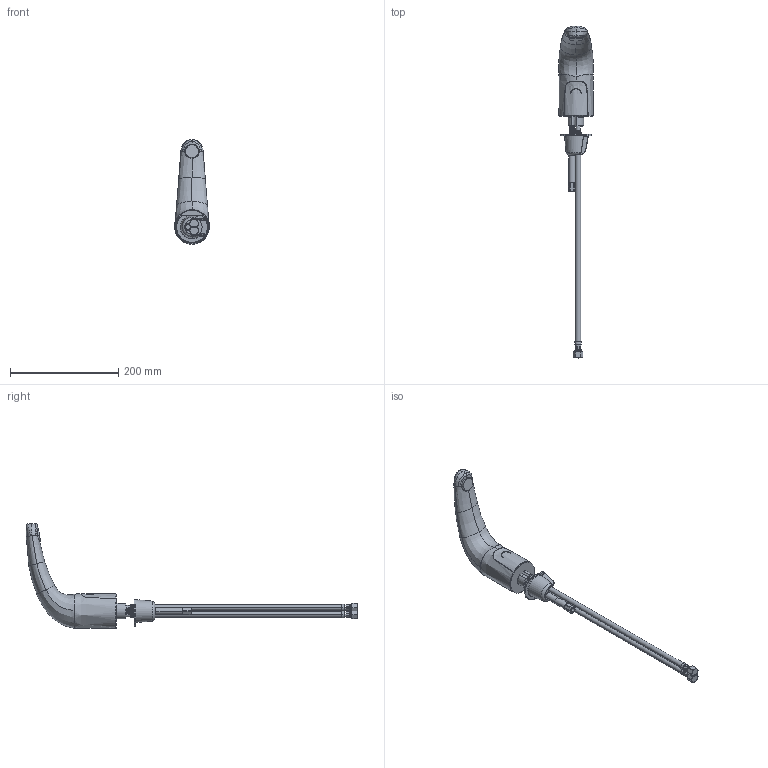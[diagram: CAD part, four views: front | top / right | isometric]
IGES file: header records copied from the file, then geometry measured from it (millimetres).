
Start section:  PTC IGES file: 116-111-21-1_REV030810.igs
Global section: file name: 116-111-21-1_REV030810.igs; native system: Pro/ENGINEER by Parametric Technology Corporation; preprocessor: 2009230; author: sdmitruk; organization: Unknown; date: 20100309.082809; units: inch
Bounding box: 64.56 x 614.28 x 193.38 mm (x, y, z)
Surface area: 111711.7 mm2 (no closed solid volume)
Topology: 0 solids, 47 shells, 558 faces, 1674 edges, 1132 vertices
Faces by surface type: revolution 308, bspline 250
